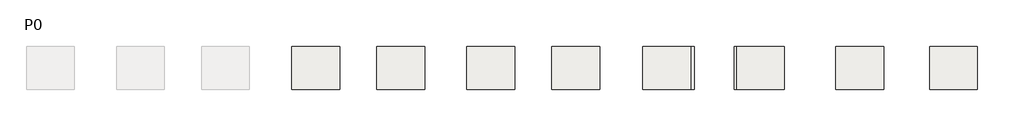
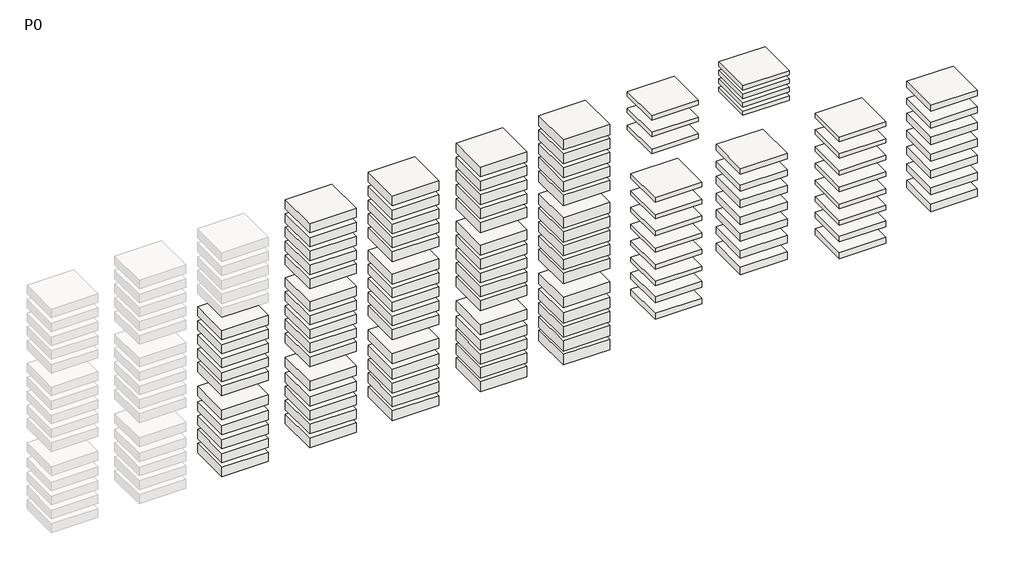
# One storey, part 11 of 11: 107 slabs.
"""IFC4 building model written with IfcOpenShell, lengths in millimetres."""

import ifcopenshell
import ifcopenshell.guid

model = None  # the IFC model being written
_history = None  # IfcOwnerHistory: only IFC2X3 demands one
_inside = {}  # id of a spatial element -> (the spatial element, [elements in it])
_under = {}  # id of a project, library or spatial element -> (it, [spatial elements below it])
_declared = {}  # id of a project -> (the project, [libraries it declares])
_typed = {}  # id of a type object -> (the type object, [elements of that type])
_made_of = {}  # id of a material, layer set ... -> (it, [elements and type objects made of it])


def new_model(schema):
    """Start an empty IFC model of exactly this schema.

    Asked for "IFC4X3", IfcOpenShell would pick the latest addendum, in which some entities
    have other attributes; the version numbers below select the first issue.
    IFC2X3 requires an IfcOwnerHistory on every rooted entity: one is made here for all.
    """
    global model, _history
    if schema == "IFC4X3":
        model = ifcopenshell.file(schema_version=(4, 3, 0, 0))
    else:
        model = ifcopenshell.file(schema=schema)
    _inside.clear()
    _under.clear()
    _declared.clear()
    _typed.clear()
    _made_of.clear()
    _history = None
    if model.schema == "IFC2X3":
        org = make("IfcOrganization", Name="unknown")
        user = make(
            "IfcPersonAndOrganization",
            ThePerson=make("IfcPerson", FamilyName="unknown"),
            TheOrganization=org,
        )
        app = make(
            "IfcApplication",
            ApplicationDeveloper=org,
            Version="unknown",
            ApplicationFullName="unknown",
            ApplicationIdentifier="unknown",
        )
        _history = make(
            "IfcOwnerHistory",
            OwningUser=user,
            OwningApplication=app,
            ChangeAction="ADDED",
            CreationDate=0,
        )
    return model


def make(cls, **values):
    """One entity of the class cls with the attributes given. An attribute that is None is left unset."""
    return model.create_entity(
        cls, **{name: value for name, value in values.items() if value is not None}
    )


def rooted(cls, **values):
    """An entity with a GlobalId (a new one), such as an element, a storey or a relation."""
    return make(cls, GlobalId=ifcopenshell.guid.new(), OwnerHistory=_history, **values)


def si_unit(unit_type, name, prefix=None):
    """IfcSIUnit, for example si_unit("LENGTHUNIT", "METRE", prefix="MILLI")."""
    return make("IfcSIUnit", UnitType=unit_type, Prefix=prefix, Name=name)


def assignment(units):
    """IfcUnitAssignment: the units of a project."""
    return None if units is None else make("IfcUnitAssignment", Units=units)


def point(xyz):
    """IfcCartesianPoint."""
    return None if xyz is None else make("IfcCartesianPoint", Coordinates=xyz)


def direction(xyz):
    """IfcDirection."""
    return None if xyz is None else make("IfcDirection", DirectionRatios=xyz)


def frame(location, z_axis=None, x_axis=None):
    """IfcAxis2Placement3D, a coordinate frame: its origin and axes. An axis left out is left unset."""
    return make(
        "IfcAxis2Placement3D",
        Location=point(location),
        Axis=direction(z_axis),
        RefDirection=direction(x_axis),
    )


def origin():
    """The frame at (0, 0, 0) with its axes left unset."""
    return frame((0.0, 0.0, 0.0))


def place(relative_to, where):
    """IfcLocalPlacement: puts the frame where relative to a parent placement (None: the world)."""
    return make(
        "IfcLocalPlacement", PlacementRelTo=relative_to, RelativePlacement=where
    )


def context(
    kind, dimensions, precision=None, world=None, true_north=None, identifier=None
):
    """IfcGeometricRepresentationContext, for example the 3D "Model" context."""
    return make(
        "IfcGeometricRepresentationContext",
        ContextIdentifier=identifier,
        ContextType=kind,
        CoordinateSpaceDimension=dimensions,
        Precision=precision,
        WorldCoordinateSystem=world,
        TrueNorth=true_north,
    )


def project(units=None, contexts=None):
    """IfcProject with its units and contexts."""
    return rooted(
        "IfcProject",
        Name="project",
        RepresentationContexts=contexts,
        UnitsInContext=assignment(units),
    )


def spatial(cls, under=None, at=None, **own):
    """A site, building, storey or space (cls), placed at a placement, below another one or the project."""
    s = rooted(cls, ObjectPlacement=at, **own)
    if under is not None:
        _under.setdefault(under.id(), (under, []))[1].append(s)
    return s


def polyline(points):
    """IfcPolyline through the points."""
    return make("IfcPolyline", Points=[point(p) for p in points])


def outline(outer, holes=None, kind="AREA"):
    """IfcArbitraryClosedProfileDef: a profile drawn as a closed curve; with holes, ...WithVoids."""
    if holes is None:
        return make("IfcArbitraryClosedProfileDef", ProfileType=kind, OuterCurve=outer)
    return make(
        "IfcArbitraryProfileDefWithVoids",
        ProfileType=kind,
        OuterCurve=outer,
        InnerCurves=holes,
    )


def extrude(swept, where, along, depth):
    """IfcExtrudedAreaSolid: the profile swept, set in the frame where, extruded along a direction by depth."""
    return make(
        "IfcExtrudedAreaSolid",
        SweptArea=swept,
        Position=where,
        ExtrudedDirection=direction(along),
        Depth=depth,
    )


def shape(context_of_items, identifier, shape_type, items):
    """IfcShapeRepresentation: the items that make up one representation, for example the "Body"."""
    return make(
        "IfcShapeRepresentation",
        ContextOfItems=context_of_items,
        RepresentationIdentifier=identifier,
        RepresentationType=shape_type,
        Items=items,
    )


def made_of(thing, what):
    """Note that an element or type object is made of a material, layer set ...; save() writes the relation."""
    if what is not None:
        _made_of.setdefault(what.id(), (what, []))[1].append(thing)
    return thing


def element(
    cls,
    number,
    at=None,
    inside=None,
    cuts=None,
    type_object=None,
    material=None,
    context=None,
    identifier="Body",
    shape_type=None,
    held_by="IfcProductDefinitionShape",
    body=None,
    shapes=None,
    **own,
):
    """One element of the class cls, such as IfcWall. Its Tag is "e" and its number.

    at: its placement. inside: the storey or other place that contains it. cuts: it is an
    opening in that element (IfcRelVoidsElement). A single representation is given by context,
    identifier, shape_type and body (its items); several are given by shapes. held_by: the class
    of the entity that holds the representations. save() writes the other relations.
    """
    e = rooted(cls, Tag="e%d" % number, ObjectPlacement=at, **own)
    if body is not None:
        shapes = [shape(context, identifier, shape_type, body)]
    if shapes is not None:
        e.Representation = make(held_by, Representations=shapes)
    if inside is not None:
        _inside.setdefault(inside.id(), (inside, []))[1].append(e)
    if cuts is not None:
        rooted(
            "IfcRelVoidsElement", RelatingBuildingElement=cuts, RelatedOpeningElement=e
        )
    if type_object is not None:
        _typed.setdefault(type_object.id(), (type_object, []))[1].append(e)
    return made_of(e, material)


def aggregate(whole, parts):
    """IfcRelAggregates: a whole, such as a stair, and the parts it consists of."""
    return rooted("IfcRelAggregates", RelatingObject=whole, RelatedObjects=parts)


def save(model, path):
    """Write the relations noted so far, then the file.

    IfcRelAggregates (storeys below a building ...), IfcRelContainedInSpatialStructure (elements
    in a storey), IfcRelDefinesByType, IfcRelAssociatesMaterial and IfcRelDeclares: one each for
    every whole, place, type object, material and project.
    """
    for whole, parts in _under.values():
        aggregate(whole, parts)
    for where, things in _inside.values():
        rooted(
            "IfcRelContainedInSpatialStructure",
            RelatedElements=things,
            RelatingStructure=where,
        )
    for kind, things in _typed.values():
        rooted("IfcRelDefinesByType", RelatedObjects=things, RelatingType=kind)
    for what, things in _made_of.values():
        rooted("IfcRelAssociatesMaterial", RelatedObjects=things, RelatingMaterial=what)
    for by, libraries in _declared.values():
        rooted("IfcRelDeclares", RelatingContext=by, RelatedDefinitions=libraries)
    model.write(path)


model = new_model("IFC4")

# Units and contexts
model_context = context("Model", 3, world=origin())
ifc_project = project(units=[si_unit("LENGTHUNIT", "METRE", prefix="MILLI")], contexts=[model_context])

# Site, building, storey
site = spatial("IfcSite", under=ifc_project)
building = spatial("IfcBuilding", under=site)
storey = spatial("IfcBuildingStorey", under=building, Name="P0", Elevation=0.0)

# Slabs
placement = place(None, origin())
element("IfcSlab", 1, ObjectType="NNEH48 H9", at=placement, inside=storey, context=model_context, shape_type="SweptSolid", body=[
    extrude(outline(polyline([(333850.1564071, 1686.0689128), (333850.1564071, -1013.9310872), (330850.1564071, -1013.9310872), (330850.1564071, 1686.0689128), (333850.1564071, 1686.0689128)])), frame((0.0, 0.0, -12659.532156), z_axis=(0.0, 0.0, 1.0), x_axis=(1.0, 0.0, 0.0)), (0.0, 0.0, 1.0), 628.0),
])
element("IfcSlab", 2, ObjectType="NNEH48 H9", at=placement, inside=storey, context=model_context, shape_type="SweptSolid", body=[
    extrude(outline(polyline([(333850.1564071, 1686.0689128), (333850.1564071, -1013.9310872), (330850.1564071, -1013.9310872), (330850.1564071, 1686.0689128), (333850.1564071, 1686.0689128)])), frame((0.0, 0.0, -13609.532156), z_axis=(0.0, 0.0, 1.0), x_axis=(1.0, 0.0, 0.0)), (0.0, 0.0, 1.0), 628.0),
])
element("IfcSlab", 3, ObjectType="NNEH48 H9", at=placement, inside=storey, context=model_context, shape_type="SweptSolid", body=[
    extrude(outline(polyline([(333850.1564071, 1686.0689128), (333850.1564071, -1013.9310872), (330850.1564071, -1013.9310872), (330850.1564071, 1686.0689128), (333850.1564071, 1686.0689128)])), frame((0.0, 0.0, -14559.532156), z_axis=(0.0, 0.0, 1.0), x_axis=(1.0, 0.0, 0.0)), (0.0, 0.0, 1.0), 628.0),
])
element("IfcSlab", 4, ObjectType="NNEH48 H9", at=placement, inside=storey, context=model_context, shape_type="SweptSolid", body=[
    extrude(outline(polyline([(333850.1564071, 1686.0689128), (333850.1564071, -1013.9310872), (330850.1564071, -1013.9310872), (330850.1564071, 1686.0689128), (333850.1564071, 1686.0689128)])), frame((0.0, 0.0, -15509.532156), z_axis=(0.0, 0.0, 1.0), x_axis=(1.0, 0.0, 0.0)), (0.0, 0.0, 1.0), 628.0),
])
element("IfcSlab", 5, ObjectType="NNEH48 H9", at=placement, inside=storey, context=model_context, shape_type="SweptSolid", body=[
    extrude(outline(polyline([(333850.1564071, 1686.0689128), (333850.1564071, -1013.9310872), (330850.1564071, -1013.9310872), (330850.1564071, 1686.0689128), (333850.1564071, 1686.0689128)])), frame((0.0, 0.0, -16459.532156), z_axis=(0.0, 0.0, 1.0), x_axis=(1.0, 0.0, 0.0)), (0.0, 0.0, 1.0), 628.0),
])
element("IfcSlab", 6, ObjectType="NNEH48 H10", at=placement, inside=storey, context=model_context, shape_type="SweptSolid", body=[
    extrude(outline(polyline([(333850.1564071, 1686.0689128), (333850.1564071, -1013.9310872), (330850.1564071, -1013.9310872), (330850.1564071, 1686.0689128), (333850.1564071, 1686.0689128)])), frame((0.0, 0.0, -18089.5322376), z_axis=(0.0, 0.0, 1.0), x_axis=(1.0, 0.0, 0.0)), (0.0, 0.0, 1.0), 638.0),
])
element("IfcSlab", 7, ObjectType="NNEH48 H10", at=placement, inside=storey, context=model_context, shape_type="SweptSolid", body=[
    extrude(outline(polyline([(333850.1564071, 1686.0689128), (333850.1564071, -1013.9310872), (330850.1564071, -1013.9310872), (330850.1564071, 1686.0689128), (333850.1564071, 1686.0689128)])), frame((0.0, 0.0, -19139.5322376), z_axis=(0.0, 0.0, 1.0), x_axis=(1.0, 0.0, 0.0)), (0.0, 0.0, 1.0), 638.0),
])
element("IfcSlab", 8, ObjectType="NNEH48 H10", at=placement, inside=storey, context=model_context, shape_type="SweptSolid", body=[
    extrude(outline(polyline([(333850.1564071, 1686.0689128), (333850.1564071, -1013.9310872), (330850.1564071, -1013.9310872), (330850.1564071, 1686.0689128), (333850.1564071, 1686.0689128)])), frame((0.0, 0.0, -20089.5322376), z_axis=(0.0, 0.0, 1.0), x_axis=(1.0, 0.0, 0.0)), (0.0, 0.0, 1.0), 638.0),
])
element("IfcSlab", 9, ObjectType="NNEH48 H10", at=placement, inside=storey, context=model_context, shape_type="SweptSolid", body=[
    extrude(outline(polyline([(333850.1564071, 1686.0689128), (333850.1564071, -1013.9310872), (330850.1564071, -1013.9310872), (330850.1564071, 1686.0689128), (333850.1564071, 1686.0689128)])), frame((0.0, 0.0, -21039.5322376), z_axis=(0.0, 0.0, 1.0), x_axis=(1.0, 0.0, 0.0)), (0.0, 0.0, 1.0), 638.0),
])
element("IfcSlab", 10, ObjectType="NNEH48 H10", at=placement, inside=storey, context=model_context, shape_type="SweptSolid", body=[
    extrude(outline(polyline([(333850.1564071, 1686.0689128), (333850.1564071, -1013.9310872), (330850.1564071, -1013.9310872), (330850.1564071, 1686.0689128), (333850.1564071, 1686.0689128)])), frame((0.0, 0.0, -21989.5322376), z_axis=(0.0, 0.0, 1.0), x_axis=(1.0, 0.0, 0.0)), (0.0, 0.0, 1.0), 638.0),
])
element("IfcSlab", 11, ObjectType="NNEH52 H5", at=placement, inside=storey, context=model_context, shape_type="SweptSolid", body=[
    extrude(outline(polyline([(339510.1564071, 1686.0689128), (339510.1564071, -1013.9310872), (336510.1564071, -1013.9310872), (336510.1564071, 1686.0689128), (339510.1564071, 1686.0689128)])), frame((0.0, 0.0, -7339.5323192), z_axis=(0.0, 0.0, 1.0), x_axis=(1.0, 0.0, 0.0)), (0.0, 0.0, 1.0), 628.0),
])
element("IfcSlab", 12, ObjectType="NNEH52 H5", at=placement, inside=storey, context=model_context, shape_type="SweptSolid", body=[
    extrude(outline(polyline([(339510.1564071, 1686.0689128), (339510.1564071, -1013.9310872), (336510.1564071, -1013.9310872), (336510.1564071, 1686.0689128), (339510.1564071, 1686.0689128)])), frame((0.0, 0.0, -8289.5322376), z_axis=(0.0, 0.0, 1.0), x_axis=(1.0, 0.0, 0.0)), (0.0, 0.0, 1.0), 628.0),
])
element("IfcSlab", 13, ObjectType="NNEH52 H5", at=placement, inside=storey, context=model_context, shape_type="SweptSolid", body=[
    extrude(outline(polyline([(339510.1564071, 1686.0689128), (339510.1564071, -1013.9310872), (336510.1564071, -1013.9310872), (336510.1564071, 1686.0689128), (339510.1564071, 1686.0689128)])), frame((0.0, 0.0, -9239.5322376), z_axis=(0.0, 0.0, 1.0), x_axis=(1.0, 0.0, 0.0)), (0.0, 0.0, 1.0), 628.0),
])
element("IfcSlab", 14, ObjectType="NNEH52 H5", at=placement, inside=storey, context=model_context, shape_type="SweptSolid", body=[
    extrude(outline(polyline([(339510.1564071, 1686.0689128), (339510.1564071, -1013.9310872), (336510.1564071, -1013.9310872), (336510.1564071, 1686.0689128), (339510.1564071, 1686.0689128)])), frame((0.0, 0.0, -10189.5322376), z_axis=(0.0, 0.0, 1.0), x_axis=(1.0, 0.0, 0.0)), (0.0, 0.0, 1.0), 628.0),
])
element("IfcSlab", 15, ObjectType="NNEH52 H5", at=placement, inside=storey, context=model_context, shape_type="SweptSolid", body=[
    extrude(outline(polyline([(339510.1564071, 1686.0689128), (339510.1564071, -1013.9310872), (336510.1564071, -1013.9310872), (336510.1564071, 1686.0689128), (339510.1564071, 1686.0689128)])), frame((0.0, 0.0, -11139.5323192), z_axis=(0.0, 0.0, 1.0), x_axis=(1.0, 0.0, 0.0)), (0.0, 0.0, 1.0), 628.0),
])
element("IfcSlab", 16, ObjectType="NNEH52 H6", at=placement, inside=storey, context=model_context, shape_type="SweptSolid", body=[
    extrude(outline(polyline([(339510.1564071, 1686.0689128), (339510.1564071, -1013.9310872), (336510.1564071, -1013.9310872), (336510.1564071, 1686.0689128), (339510.1564071, 1686.0689128)])), frame((0.0, 0.0, -12669.532156), z_axis=(0.0, 0.0, 1.0), x_axis=(1.0, 0.0, 0.0)), (0.0, 0.0, 1.0), 638.0),
])
element("IfcSlab", 17, ObjectType="NNEH52 H6", at=placement, inside=storey, context=model_context, shape_type="SweptSolid", body=[
    extrude(outline(polyline([(339510.1564071, 1686.0689128), (339510.1564071, -1013.9310872), (336510.1564071, -1013.9310872), (336510.1564071, 1686.0689128), (339510.1564071, 1686.0689128)])), frame((0.0, 0.0, -13619.532156), z_axis=(0.0, 0.0, 1.0), x_axis=(1.0, 0.0, 0.0)), (0.0, 0.0, 1.0), 638.0),
])
element("IfcSlab", 18, ObjectType="NNEH52 H6", at=placement, inside=storey, context=model_context, shape_type="SweptSolid", body=[
    extrude(outline(polyline([(339510.1564071, 1686.0689128), (339510.1564071, -1013.9310872), (336510.1564071, -1013.9310872), (336510.1564071, 1686.0689128), (339510.1564071, 1686.0689128)])), frame((0.0, 0.0, -14569.532156), z_axis=(0.0, 0.0, 1.0), x_axis=(1.0, 0.0, 0.0)), (0.0, 0.0, 1.0), 638.0),
])
element("IfcSlab", 19, ObjectType="NNEH52 H6", at=placement, inside=storey, context=model_context, shape_type="SweptSolid", body=[
    extrude(outline(polyline([(339510.1564071, 1686.0689128), (339510.1564071, -1013.9310872), (336510.1564071, -1013.9310872), (336510.1564071, 1686.0689128), (339510.1564071, 1686.0689128)])), frame((0.0, 0.0, -15519.532156), z_axis=(0.0, 0.0, 1.0), x_axis=(1.0, 0.0, 0.0)), (0.0, 0.0, 1.0), 638.0),
])
element("IfcSlab", 20, ObjectType="NNEH52 H6", at=placement, inside=storey, context=model_context, shape_type="SweptSolid", body=[
    extrude(outline(polyline([(339510.1564071, 1686.0689128), (339510.1564071, -1013.9310872), (336510.1564071, -1013.9310872), (336510.1564071, 1686.0689128), (339510.1564071, 1686.0689128)])), frame((0.0, 0.0, -16469.532156), z_axis=(0.0, 0.0, 1.0), x_axis=(1.0, 0.0, 0.0)), (0.0, 0.0, 1.0), 638.0),
])
element("IfcSlab", 21, ObjectType="NNEH52 H7", at=placement, inside=storey, context=model_context, shape_type="SweptSolid", body=[
    extrude(outline(polyline([(339510.1564071, 1686.0689128), (339510.1564071, -1013.9310872), (336510.1564071, -1013.9310872), (336510.1564071, 1686.0689128), (339510.1564071, 1686.0689128)])), frame((0.0, 0.0, -18099.5322376), z_axis=(0.0, 0.0, 1.0), x_axis=(1.0, 0.0, 0.0)), (0.0, 0.0, 1.0), 648.0),
])
element("IfcSlab", 22, ObjectType="NNEH52 H7", at=placement, inside=storey, context=model_context, shape_type="SweptSolid", body=[
    extrude(outline(polyline([(339510.1564071, 1686.0689128), (339510.1564071, -1013.9310872), (336510.1564071, -1013.9310872), (336510.1564071, 1686.0689128), (339510.1564071, 1686.0689128)])), frame((0.0, 0.0, -19149.5322376), z_axis=(0.0, 0.0, 1.0), x_axis=(1.0, 0.0, 0.0)), (0.0, 0.0, 1.0), 648.0),
])
element("IfcSlab", 23, ObjectType="NNEH52 H7", at=placement, inside=storey, context=model_context, shape_type="SweptSolid", body=[
    extrude(outline(polyline([(339510.1564071, 1686.0689128), (339510.1564071, -1013.9310872), (336510.1564071, -1013.9310872), (336510.1564071, 1686.0689128), (339510.1564071, 1686.0689128)])), frame((0.0, 0.0, -20099.5322376), z_axis=(0.0, 0.0, 1.0), x_axis=(1.0, 0.0, 0.0)), (0.0, 0.0, 1.0), 648.0),
])
element("IfcSlab", 24, ObjectType="NNEH52 H7", at=placement, inside=storey, context=model_context, shape_type="SweptSolid", body=[
    extrude(outline(polyline([(339510.1564071, 1686.0689128), (339510.1564071, -1013.9310872), (336510.1564071, -1013.9310872), (336510.1564071, 1686.0689128), (339510.1564071, 1686.0689128)])), frame((0.0, 0.0, -21049.5322376), z_axis=(0.0, 0.0, 1.0), x_axis=(1.0, 0.0, 0.0)), (0.0, 0.0, 1.0), 648.0),
])
element("IfcSlab", 25, ObjectType="NNEH52 H7", at=placement, inside=storey, context=model_context, shape_type="SweptSolid", body=[
    extrude(outline(polyline([(339510.1564071, 1686.0689128), (339510.1564071, -1013.9310872), (336510.1564071, -1013.9310872), (336510.1564071, 1686.0689128), (339510.1564071, 1686.0689128)])), frame((0.0, 0.0, -21999.5322376), z_axis=(0.0, 0.0, 1.0), x_axis=(1.0, 0.0, 0.0)), (0.0, 0.0, 1.0), 648.0),
])
element("IfcSlab", 26, ObjectType="NNEH52 H8", at=placement, inside=storey, context=model_context, shape_type="SweptSolid", body=[
    extrude(outline(polyline([(344850.1564071, 1686.0689128), (344850.1564071, -1013.9310872), (341850.1564071, -1013.9310872), (341850.1564071, 1686.0689128), (344850.1564071, 1686.0689128)])), frame((0.0, 0.0, -7369.5322376), z_axis=(0.0, 0.0, 1.0), x_axis=(1.0, 0.0, 0.0)), (0.0, 0.0, 1.0), 658.0),
])
element("IfcSlab", 27, ObjectType="NNEH52 H8", at=placement, inside=storey, context=model_context, shape_type="SweptSolid", body=[
    extrude(outline(polyline([(344850.1564071, 1686.0689128), (344850.1564071, -1013.9310872), (341850.1564071, -1013.9310872), (341850.1564071, 1686.0689128), (344850.1564071, 1686.0689128)])), frame((0.0, 0.0, -8319.5322376), z_axis=(0.0, 0.0, 1.0), x_axis=(1.0, 0.0, 0.0)), (0.0, 0.0, 1.0), 658.0),
])
element("IfcSlab", 28, ObjectType="NNEH52 H8", at=placement, inside=storey, context=model_context, shape_type="SweptSolid", body=[
    extrude(outline(polyline([(344850.1564071, 1686.0689128), (344850.1564071, -1013.9310872), (341850.1564071, -1013.9310872), (341850.1564071, 1686.0689128), (344850.1564071, 1686.0689128)])), frame((0.0, 0.0, -9269.5322376), z_axis=(0.0, 0.0, 1.0), x_axis=(1.0, 0.0, 0.0)), (0.0, 0.0, 1.0), 658.0),
])
element("IfcSlab", 29, ObjectType="NNEH52 H8", at=placement, inside=storey, context=model_context, shape_type="SweptSolid", body=[
    extrude(outline(polyline([(344850.1564071, 1686.0689128), (344850.1564071, -1013.9310872), (341850.1564071, -1013.9310872), (341850.1564071, 1686.0689128), (344850.1564071, 1686.0689128)])), frame((0.0, 0.0, -10219.5322376), z_axis=(0.0, 0.0, 1.0), x_axis=(1.0, 0.0, 0.0)), (0.0, 0.0, 1.0), 658.0),
])
element("IfcSlab", 30, ObjectType="NNEH52 H8", at=placement, inside=storey, context=model_context, shape_type="SweptSolid", body=[
    extrude(outline(polyline([(344850.1564071, 1686.0689128), (344850.1564071, -1013.9310872), (341850.1564071, -1013.9310872), (341850.1564071, 1686.0689128), (344850.1564071, 1686.0689128)])), frame((0.0, 0.0, -11169.5323192), z_axis=(0.0, 0.0, 1.0), x_axis=(1.0, 0.0, 0.0)), (0.0, 0.0, 1.0), 658.0),
])
element("IfcSlab", 31, ObjectType="NNEH52 H9", at=placement, inside=storey, context=model_context, shape_type="SweptSolid", body=[
    extrude(outline(polyline([(344850.1564071, 1686.0689128), (344850.1564071, -1013.9310872), (341850.1564071, -1013.9310872), (341850.1564071, 1686.0689128), (344850.1564071, 1686.0689128)])), frame((0.0, 0.0, -12699.532156), z_axis=(0.0, 0.0, 1.0), x_axis=(1.0, 0.0, 0.0)), (0.0, 0.0, 1.0), 668.0),
])
element("IfcSlab", 32, ObjectType="NNEH52 H9", at=placement, inside=storey, context=model_context, shape_type="SweptSolid", body=[
    extrude(outline(polyline([(344850.1564071, 1686.0689128), (344850.1564071, -1013.9310872), (341850.1564071, -1013.9310872), (341850.1564071, 1686.0689128), (344850.1564071, 1686.0689128)])), frame((0.0, 0.0, -13649.532156), z_axis=(0.0, 0.0, 1.0), x_axis=(1.0, 0.0, 0.0)), (0.0, 0.0, 1.0), 668.0),
])
element("IfcSlab", 33, ObjectType="NNEH52 H9", at=placement, inside=storey, context=model_context, shape_type="SweptSolid", body=[
    extrude(outline(polyline([(344850.1564071, 1686.0689128), (344850.1564071, -1013.9310872), (341850.1564071, -1013.9310872), (341850.1564071, 1686.0689128), (344850.1564071, 1686.0689128)])), frame((0.0, 0.0, -14599.532156), z_axis=(0.0, 0.0, 1.0), x_axis=(1.0, 0.0, 0.0)), (0.0, 0.0, 1.0), 668.0),
])
element("IfcSlab", 34, ObjectType="NNEH52 H9", at=placement, inside=storey, context=model_context, shape_type="SweptSolid", body=[
    extrude(outline(polyline([(344850.1564071, 1686.0689128), (344850.1564071, -1013.9310872), (341850.1564071, -1013.9310872), (341850.1564071, 1686.0689128), (344850.1564071, 1686.0689128)])), frame((0.0, 0.0, -15549.532156), z_axis=(0.0, 0.0, 1.0), x_axis=(1.0, 0.0, 0.0)), (0.0, 0.0, 1.0), 668.0),
])
element("IfcSlab", 35, ObjectType="NNEH52 H9", at=placement, inside=storey, context=model_context, shape_type="SweptSolid", body=[
    extrude(outline(polyline([(344850.1564071, 1686.0689128), (344850.1564071, -1013.9310872), (341850.1564071, -1013.9310872), (341850.1564071, 1686.0689128), (344850.1564071, 1686.0689128)])), frame((0.0, 0.0, -16499.532156), z_axis=(0.0, 0.0, 1.0), x_axis=(1.0, 0.0, 0.0)), (0.0, 0.0, 1.0), 668.0),
])
element("IfcSlab", 36, ObjectType="NNEH52 H10", at=placement, inside=storey, context=model_context, shape_type="SweptSolid", body=[
    extrude(outline(polyline([(344850.1564071, 1686.0689128), (344850.1564071, -1013.9310872), (341850.1564071, -1013.9310872), (341850.1564071, 1686.0689128), (344850.1564071, 1686.0689128)])), frame((0.0, 0.0, -18129.5322376), z_axis=(0.0, 0.0, 1.0), x_axis=(1.0, 0.0, 0.0)), (0.0, 0.0, 1.0), 678.0),
])
element("IfcSlab", 37, ObjectType="NNEH52 H10", at=placement, inside=storey, context=model_context, shape_type="SweptSolid", body=[
    extrude(outline(polyline([(344850.1564071, 1686.0689128), (344850.1564071, -1013.9310872), (341850.1564071, -1013.9310872), (341850.1564071, 1686.0689128), (344850.1564071, 1686.0689128)])), frame((0.0, 0.0, -19179.5322376), z_axis=(0.0, 0.0, 1.0), x_axis=(1.0, 0.0, 0.0)), (0.0, 0.0, 1.0), 678.0),
])
element("IfcSlab", 38, ObjectType="NNEH52 H10", at=placement, inside=storey, context=model_context, shape_type="SweptSolid", body=[
    extrude(outline(polyline([(344850.1564071, 1686.0689128), (344850.1564071, -1013.9310872), (341850.1564071, -1013.9310872), (341850.1564071, 1686.0689128), (344850.1564071, 1686.0689128)])), frame((0.0, 0.0, -20129.5322376), z_axis=(0.0, 0.0, 1.0), x_axis=(1.0, 0.0, 0.0)), (0.0, 0.0, 1.0), 678.0),
])
element("IfcSlab", 39, ObjectType="NNEH52 H10", at=placement, inside=storey, context=model_context, shape_type="SweptSolid", body=[
    extrude(outline(polyline([(344850.1564071, 1686.0689128), (344850.1564071, -1013.9310872), (341850.1564071, -1013.9310872), (341850.1564071, 1686.0689128), (344850.1564071, 1686.0689128)])), frame((0.0, 0.0, -21079.5322376), z_axis=(0.0, 0.0, 1.0), x_axis=(1.0, 0.0, 0.0)), (0.0, 0.0, 1.0), 678.0),
])
element("IfcSlab", 40, ObjectType="NNEH52 H10", at=placement, inside=storey, context=model_context, shape_type="SweptSolid", body=[
    extrude(outline(polyline([(344850.1564071, 1686.0689128), (344850.1564071, -1013.9310872), (341850.1564071, -1013.9310872), (341850.1564071, 1686.0689128), (344850.1564071, 1686.0689128)])), frame((0.0, 0.0, -22029.5322376), z_axis=(0.0, 0.0, 1.0), x_axis=(1.0, 0.0, 0.0)), (0.0, 0.0, 1.0), 678.0),
])
element("IfcSlab", 41, ObjectType="NNEH56 H5", at=placement, inside=storey, context=model_context, shape_type="SweptSolid", body=[
    extrude(outline(polyline([(350510.1564071, 1686.0689128), (350510.1564071, -1013.9310872), (347510.1564071, -1013.9310872), (347510.1564071, 1686.0689128), (350510.1564071, 1686.0689128)])), frame((0.0, 0.0, -7379.5322376), z_axis=(0.0, 0.0, 1.0), x_axis=(1.0, 0.0, 0.0)), (0.0, 0.0, 1.0), 668.0),
])
element("IfcSlab", 42, ObjectType="NNEH56 H5", at=placement, inside=storey, context=model_context, shape_type="SweptSolid", body=[
    extrude(outline(polyline([(350510.1564071, 1686.0689128), (350510.1564071, -1013.9310872), (347510.1564071, -1013.9310872), (347510.1564071, 1686.0689128), (350510.1564071, 1686.0689128)])), frame((0.0, 0.0, -8329.5322376), z_axis=(0.0, 0.0, 1.0), x_axis=(1.0, 0.0, 0.0)), (0.0, 0.0, 1.0), 668.0),
])
element("IfcSlab", 43, ObjectType="NNEH56 H5", at=placement, inside=storey, context=model_context, shape_type="SweptSolid", body=[
    extrude(outline(polyline([(350510.1564071, 1686.0689128), (350510.1564071, -1013.9310872), (347510.1564071, -1013.9310872), (347510.1564071, 1686.0689128), (350510.1564071, 1686.0689128)])), frame((0.0, 0.0, -9279.5322376), z_axis=(0.0, 0.0, 1.0), x_axis=(1.0, 0.0, 0.0)), (0.0, 0.0, 1.0), 668.0),
])
element("IfcSlab", 44, ObjectType="NNEH56 H5", at=placement, inside=storey, context=model_context, shape_type="SweptSolid", body=[
    extrude(outline(polyline([(350510.1564071, 1686.0689128), (350510.1564071, -1013.9310872), (347510.1564071, -1013.9310872), (347510.1564071, 1686.0689128), (350510.1564071, 1686.0689128)])), frame((0.0, 0.0, -10229.5322376), z_axis=(0.0, 0.0, 1.0), x_axis=(1.0, 0.0, 0.0)), (0.0, 0.0, 1.0), 668.0),
])
element("IfcSlab", 45, ObjectType="NNEH56 H5", at=placement, inside=storey, context=model_context, shape_type="SweptSolid", body=[
    extrude(outline(polyline([(350510.1564071, 1686.0689128), (350510.1564071, -1013.9310872), (347510.1564071, -1013.9310872), (347510.1564071, 1686.0689128), (350510.1564071, 1686.0689128)])), frame((0.0, 0.0, -11179.5323192), z_axis=(0.0, 0.0, 1.0), x_axis=(1.0, 0.0, 0.0)), (0.0, 0.0, 1.0), 668.0),
])
element("IfcSlab", 46, ObjectType="NNEH56 H6", at=placement, inside=storey, context=model_context, shape_type="SweptSolid", body=[
    extrude(outline(polyline([(350510.1564071, 1686.0689128), (350510.1564071, -1013.9310872), (347510.1564071, -1013.9310872), (347510.1564071, 1686.0689128), (350510.1564071, 1686.0689128)])), frame((0.0, 0.0, -12709.532156), z_axis=(0.0, 0.0, 1.0), x_axis=(1.0, 0.0, 0.0)), (0.0, 0.0, 1.0), 678.0),
])
element("IfcSlab", 47, ObjectType="NNEH56 H6", at=placement, inside=storey, context=model_context, shape_type="SweptSolid", body=[
    extrude(outline(polyline([(350510.1564071, 1686.0689128), (350510.1564071, -1013.9310872), (347510.1564071, -1013.9310872), (347510.1564071, 1686.0689128), (350510.1564071, 1686.0689128)])), frame((0.0, 0.0, -13659.532156), z_axis=(0.0, 0.0, 1.0), x_axis=(1.0, 0.0, 0.0)), (0.0, 0.0, 1.0), 678.0),
])
element("IfcSlab", 48, ObjectType="NNEH56 H6", at=placement, inside=storey, context=model_context, shape_type="SweptSolid", body=[
    extrude(outline(polyline([(350510.1564071, 1686.0689128), (350510.1564071, -1013.9310872), (347510.1564071, -1013.9310872), (347510.1564071, 1686.0689128), (350510.1564071, 1686.0689128)])), frame((0.0, 0.0, -14609.532156), z_axis=(0.0, 0.0, 1.0), x_axis=(1.0, 0.0, 0.0)), (0.0, 0.0, 1.0), 678.0),
])
element("IfcSlab", 49, ObjectType="NNEH56 H6", at=placement, inside=storey, context=model_context, shape_type="SweptSolid", body=[
    extrude(outline(polyline([(350510.1564071, 1686.0689128), (350510.1564071, -1013.9310872), (347510.1564071, -1013.9310872), (347510.1564071, 1686.0689128), (350510.1564071, 1686.0689128)])), frame((0.0, 0.0, -15559.532156), z_axis=(0.0, 0.0, 1.0), x_axis=(1.0, 0.0, 0.0)), (0.0, 0.0, 1.0), 678.0),
])
element("IfcSlab", 50, ObjectType="NNEH56 H6", at=placement, inside=storey, context=model_context, shape_type="SweptSolid", body=[
    extrude(outline(polyline([(350510.1564071, 1686.0689128), (350510.1564071, -1013.9310872), (347510.1564071, -1013.9310872), (347510.1564071, 1686.0689128), (350510.1564071, 1686.0689128)])), frame((0.0, 0.0, -16509.532156), z_axis=(0.0, 0.0, 1.0), x_axis=(1.0, 0.0, 0.0)), (0.0, 0.0, 1.0), 678.0),
])
element("IfcSlab", 51, ObjectType="NNEH56 H7", at=placement, inside=storey, context=model_context, shape_type="SweptSolid", body=[
    extrude(outline(polyline([(350510.1564071, 1686.0689128), (350510.1564071, -1013.9310872), (347510.1564071, -1013.9310872), (347510.1564071, 1686.0689128), (350510.1564071, 1686.0689128)])), frame((0.0, 0.0, -18139.5322376), z_axis=(0.0, 0.0, 1.0), x_axis=(1.0, 0.0, 0.0)), (0.0, 0.0, 1.0), 688.0),
])
element("IfcSlab", 52, ObjectType="NNEH56 H7", at=placement, inside=storey, context=model_context, shape_type="SweptSolid", body=[
    extrude(outline(polyline([(350510.1564071, 1686.0689128), (350510.1564071, -1013.9310872), (347510.1564071, -1013.9310872), (347510.1564071, 1686.0689128), (350510.1564071, 1686.0689128)])), frame((0.0, 0.0, -19189.5322376), z_axis=(0.0, 0.0, 1.0), x_axis=(1.0, 0.0, 0.0)), (0.0, 0.0, 1.0), 688.0),
])
element("IfcSlab", 53, ObjectType="NNEH56 H7", at=placement, inside=storey, context=model_context, shape_type="SweptSolid", body=[
    extrude(outline(polyline([(350510.1564071, 1686.0689128), (350510.1564071, -1013.9310872), (347510.1564071, -1013.9310872), (347510.1564071, 1686.0689128), (350510.1564071, 1686.0689128)])), frame((0.0, 0.0, -20139.5322376), z_axis=(0.0, 0.0, 1.0), x_axis=(1.0, 0.0, 0.0)), (0.0, 0.0, 1.0), 688.0),
])
element("IfcSlab", 54, ObjectType="NNEH56 H7", at=placement, inside=storey, context=model_context, shape_type="SweptSolid", body=[
    extrude(outline(polyline([(350510.1564071, 1686.0689128), (350510.1564071, -1013.9310872), (347510.1564071, -1013.9310872), (347510.1564071, 1686.0689128), (350510.1564071, 1686.0689128)])), frame((0.0, 0.0, -21089.5322376), z_axis=(0.0, 0.0, 1.0), x_axis=(1.0, 0.0, 0.0)), (0.0, 0.0, 1.0), 688.0),
])
element("IfcSlab", 55, ObjectType="NNEH56 H7", at=placement, inside=storey, context=model_context, shape_type="SweptSolid", body=[
    extrude(outline(polyline([(350510.1564071, 1686.0689128), (350510.1564071, -1013.9310872), (347510.1564071, -1013.9310872), (347510.1564071, 1686.0689128), (350510.1564071, 1686.0689128)])), frame((0.0, 0.0, -22039.5322376), z_axis=(0.0, 0.0, 1.0), x_axis=(1.0, 0.0, 0.0)), (0.0, 0.0, 1.0), 688.0),
])
element("IfcSlab", 56, ObjectType="NNEH56 H8", at=placement, inside=storey, context=model_context, shape_type="SweptSolid", body=[
    extrude(outline(polyline([(355850.1564071, 1686.0689128), (355850.1564071, -1013.9310872), (352850.1564071, -1013.9310872), (352850.1564071, 1686.0689128), (355850.1564071, 1686.0689128)])), frame((0.0, 0.0, -7409.5322376), z_axis=(0.0, 0.0, 1.0), x_axis=(1.0, 0.0, 0.0)), (0.0, 0.0, 1.0), 698.0),
])
element("IfcSlab", 57, ObjectType="NNEH56 H8", at=placement, inside=storey, context=model_context, shape_type="SweptSolid", body=[
    extrude(outline(polyline([(355850.1564071, 1686.0689128), (355850.1564071, -1013.9310872), (352850.1564071, -1013.9310872), (352850.1564071, 1686.0689128), (355850.1564071, 1686.0689128)])), frame((0.0, 0.0, -8359.5322376), z_axis=(0.0, 0.0, 1.0), x_axis=(1.0, 0.0, 0.0)), (0.0, 0.0, 1.0), 698.0),
])
element("IfcSlab", 58, ObjectType="NNEH56 H8", at=placement, inside=storey, context=model_context, shape_type="SweptSolid", body=[
    extrude(outline(polyline([(355850.1564071, 1686.0689128), (355850.1564071, -1013.9310872), (352850.1564071, -1013.9310872), (352850.1564071, 1686.0689128), (355850.1564071, 1686.0689128)])), frame((0.0, 0.0, -9309.5322376), z_axis=(0.0, 0.0, 1.0), x_axis=(1.0, 0.0, 0.0)), (0.0, 0.0, 1.0), 698.0),
])
element("IfcSlab", 59, ObjectType="NNEH56 H8", at=placement, inside=storey, context=model_context, shape_type="SweptSolid", body=[
    extrude(outline(polyline([(355850.1564071, 1686.0689128), (355850.1564071, -1013.9310872), (352850.1564071, -1013.9310872), (352850.1564071, 1686.0689128), (355850.1564071, 1686.0689128)])), frame((0.0, 0.0, -10259.5322376), z_axis=(0.0, 0.0, 1.0), x_axis=(1.0, 0.0, 0.0)), (0.0, 0.0, 1.0), 698.0),
])
element("IfcSlab", 60, ObjectType="NNEH56 H8", at=placement, inside=storey, context=model_context, shape_type="SweptSolid", body=[
    extrude(outline(polyline([(355850.1564071, 1686.0689128), (355850.1564071, -1013.9310872), (352850.1564071, -1013.9310872), (352850.1564071, 1686.0689128), (355850.1564071, 1686.0689128)])), frame((0.0, 0.0, -11209.5323192), z_axis=(0.0, 0.0, 1.0), x_axis=(1.0, 0.0, 0.0)), (0.0, 0.0, 1.0), 698.0),
])
element("IfcSlab", 61, ObjectType="NNEH56 H9", at=placement, inside=storey, context=model_context, shape_type="SweptSolid", body=[
    extrude(outline(polyline([(355850.1564071, 1686.0689128), (355850.1564071, -1013.9310872), (352850.1564071, -1013.9310872), (352850.1564071, 1686.0689128), (355850.1564071, 1686.0689128)])), frame((0.0, 0.0, -12739.532156), z_axis=(0.0, 0.0, 1.0), x_axis=(1.0, 0.0, 0.0)), (0.0, 0.0, 1.0), 708.0),
])
element("IfcSlab", 62, ObjectType="NNEH56 H9", at=placement, inside=storey, context=model_context, shape_type="SweptSolid", body=[
    extrude(outline(polyline([(355850.1564071, 1686.0689128), (355850.1564071, -1013.9310872), (352850.1564071, -1013.9310872), (352850.1564071, 1686.0689128), (355850.1564071, 1686.0689128)])), frame((0.0, 0.0, -13689.532156), z_axis=(0.0, 0.0, 1.0), x_axis=(1.0, 0.0, 0.0)), (0.0, 0.0, 1.0), 708.0),
])
element("IfcSlab", 63, ObjectType="NNEH56 H9", at=placement, inside=storey, context=model_context, shape_type="SweptSolid", body=[
    extrude(outline(polyline([(355850.1564071, 1686.0689128), (355850.1564071, -1013.9310872), (352850.1564071, -1013.9310872), (352850.1564071, 1686.0689128), (355850.1564071, 1686.0689128)])), frame((0.0, 0.0, -14639.532156), z_axis=(0.0, 0.0, 1.0), x_axis=(1.0, 0.0, 0.0)), (0.0, 0.0, 1.0), 708.0),
])
element("IfcSlab", 64, ObjectType="NNEH56 H9", at=placement, inside=storey, context=model_context, shape_type="SweptSolid", body=[
    extrude(outline(polyline([(355850.1564071, 1686.0689128), (355850.1564071, -1013.9310872), (352850.1564071, -1013.9310872), (352850.1564071, 1686.0689128), (355850.1564071, 1686.0689128)])), frame((0.0, 0.0, -15589.532156), z_axis=(0.0, 0.0, 1.0), x_axis=(1.0, 0.0, 0.0)), (0.0, 0.0, 1.0), 708.0),
])
element("IfcSlab", 65, ObjectType="NNEH56 H9", at=placement, inside=storey, context=model_context, shape_type="SweptSolid", body=[
    extrude(outline(polyline([(355850.1564071, 1686.0689128), (355850.1564071, -1013.9310872), (352850.1564071, -1013.9310872), (352850.1564071, 1686.0689128), (355850.1564071, 1686.0689128)])), frame((0.0, 0.0, -16539.532156), z_axis=(0.0, 0.0, 1.0), x_axis=(1.0, 0.0, 0.0)), (0.0, 0.0, 1.0), 708.0),
])
element("IfcSlab", 66, ObjectType="NNEH56 H10", at=placement, inside=storey, context=model_context, shape_type="SweptSolid", body=[
    extrude(outline(polyline([(355850.1564071, 1686.0689128), (355850.1564071, -1013.9310872), (352850.1564071, -1013.9310872), (352850.1564071, 1686.0689128), (355850.1564071, 1686.0689128)])), frame((0.0, 0.0, -18169.5322376), z_axis=(0.0, 0.0, 1.0), x_axis=(1.0, 0.0, 0.0)), (0.0, 0.0, 1.0), 718.0),
])
element("IfcSlab", 67, ObjectType="NNEH56 H10", at=placement, inside=storey, context=model_context, shape_type="SweptSolid", body=[
    extrude(outline(polyline([(355850.1564071, 1686.0689128), (355850.1564071, -1013.9310872), (352850.1564071, -1013.9310872), (352850.1564071, 1686.0689128), (355850.1564071, 1686.0689128)])), frame((0.0, 0.0, -19219.5322376), z_axis=(0.0, 0.0, 1.0), x_axis=(1.0, 0.0, 0.0)), (0.0, 0.0, 1.0), 718.0),
])
element("IfcSlab", 68, ObjectType="NNEH56 H10", at=placement, inside=storey, context=model_context, shape_type="SweptSolid", body=[
    extrude(outline(polyline([(355850.1564071, 1686.0689128), (355850.1564071, -1013.9310872), (352850.1564071, -1013.9310872), (352850.1564071, 1686.0689128), (355850.1564071, 1686.0689128)])), frame((0.0, 0.0, -20169.5322376), z_axis=(0.0, 0.0, 1.0), x_axis=(1.0, 0.0, 0.0)), (0.0, 0.0, 1.0), 718.0),
])
element("IfcSlab", 69, ObjectType="NNEH56 H10", at=placement, inside=storey, context=model_context, shape_type="SweptSolid", body=[
    extrude(outline(polyline([(355850.1564071, 1686.0689128), (355850.1564071, -1013.9310872), (352850.1564071, -1013.9310872), (352850.1564071, 1686.0689128), (355850.1564071, 1686.0689128)])), frame((0.0, 0.0, -21119.5322376), z_axis=(0.0, 0.0, 1.0), x_axis=(1.0, 0.0, 0.0)), (0.0, 0.0, 1.0), 718.0),
])
element("IfcSlab", 70, ObjectType="NNEH56 H10", at=placement, inside=storey, context=model_context, shape_type="SweptSolid", body=[
    extrude(outline(polyline([(355850.1564071, 1686.0689128), (355850.1564071, -1013.9310872), (352850.1564071, -1013.9310872), (352850.1564071, 1686.0689128), (355850.1564071, 1686.0689128)])), frame((0.0, 0.0, -22069.5322376), z_axis=(0.0, 0.0, 1.0), x_axis=(1.0, 0.0, 0.0)), (0.0, 0.0, 1.0), 718.0),
])
element("IfcSlab", 71, ObjectType="000_GENERICO_30", at=placement, inside=storey, context=model_context, shape_type="SweptSolid", body=[
    extrude(outline(polyline([(361564.3935043, 1686.0689128), (361564.3935043, -1013.9310872), (358564.3935043, -1013.9310872), (358564.3935043, 1686.0689128), (361564.3935043, 1686.0689128)])), frame((0.0, 0.0, -9661.5323192), z_axis=(0.0, 0.0, 1.0), x_axis=(1.0, 0.0, 0.0)), (0.0, 0.0, 1.0), 300.0),
])
element("IfcSlab", 72, ObjectType="000_GENERICO_30", at=placement, inside=storey, context=model_context, shape_type="SweptSolid", body=[
    extrude(outline(polyline([(361564.3935043, 1686.0689128), (361564.3935043, -1013.9310872), (358564.3935043, -1013.9310872), (358564.3935043, 1686.0689128), (361564.3935043, 1686.0689128)])), frame((0.0, 0.0, -8521.5323192), z_axis=(0.0, 0.0, 1.0), x_axis=(1.0, 0.0, 0.0)), (0.0, 0.0, 1.0), 300.0),
])
element("IfcSlab", 73, ObjectType="000_GENERICO_30", at=placement, inside=storey, context=model_context, shape_type="SweptSolid", body=[
    extrude(outline(polyline([(361564.3935043, 1686.0689128), (361564.3935043, -1013.9310872), (358564.3935043, -1013.9310872), (358564.3935043, 1686.0689128), (361564.3935043, 1686.0689128)])), frame((0.0, 0.0, -7381.5323192), z_axis=(0.0, 0.0, 1.0), x_axis=(1.0, 0.0, 0.0)), (0.0, 0.0, 1.0), 300.0),
])
element("IfcSlab", 74, ObjectType="000_GENERICO_30", at=placement, inside=storey, context=model_context, shape_type="SweptSolid", body=[
    extrude(outline(polyline([(373670.488344, 1686.0689128), (373670.488344, -1013.9310872), (370670.488344, -1013.9310872), (370670.488344, 1686.0689128), (373670.488344, 1686.0689128)])), frame((0.0, 0.0, -13081.5323192), z_axis=(0.0, 0.0, 1.0), x_axis=(1.0, 0.0, 0.0)), (0.0, 0.0, 1.0), 300.0),
])
element("IfcSlab", 75, ObjectType="000_GENERICO_30", at=placement, inside=storey, context=model_context, shape_type="SweptSolid", body=[
    extrude(outline(polyline([(373670.488344, 1686.0689128), (373670.488344, -1013.9310872), (370670.488344, -1013.9310872), (370670.488344, 1686.0689128), (373670.488344, 1686.0689128)])), frame((0.0, 0.0, -14221.5323192), z_axis=(0.0, 0.0, 1.0), x_axis=(1.0, 0.0, 0.0)), (0.0, 0.0, 1.0), 300.0),
])
element("IfcSlab", 76, ObjectType="000_GENERICO_30", at=placement, inside=storey, context=model_context, shape_type="SweptSolid", body=[
    extrude(outline(polyline([(373670.488344, 1686.0689128), (373670.488344, -1013.9310872), (370670.488344, -1013.9310872), (370670.488344, 1686.0689128), (373670.488344, 1686.0689128)])), frame((0.0, 0.0, -15361.5323192), z_axis=(0.0, 0.0, 1.0), x_axis=(1.0, 0.0, 0.0)), (0.0, 0.0, 1.0), 300.0),
])
element("IfcSlab", 77, ObjectType="000_GENERICO_30", at=placement, inside=storey, context=model_context, shape_type="SweptSolid", body=[
    extrude(outline(polyline([(373670.488344, 1686.0689128), (373670.488344, -1013.9310872), (370670.488344, -1013.9310872), (370670.488344, 1686.0689128), (373670.488344, 1686.0689128)])), frame((0.0, 0.0, -16501.5323192), z_axis=(0.0, 0.0, 1.0), x_axis=(1.0, 0.0, 0.0)), (0.0, 0.0, 1.0), 300.0),
])
element("IfcSlab", 78, ObjectType="000_GENERICO_30", at=placement, inside=storey, context=model_context, shape_type="SweptSolid", body=[
    extrude(outline(polyline([(373670.488344, 1686.0689128), (373670.488344, -1013.9310872), (370670.488344, -1013.9310872), (370670.488344, 1686.0689128), (373670.488344, 1686.0689128)])), frame((0.0, 0.0, -17641.5323192), z_axis=(0.0, 0.0, 1.0), x_axis=(1.0, 0.0, 0.0)), (0.0, 0.0, 1.0), 300.0),
])
element("IfcSlab", 79, ObjectType="000_GENERICO_30", at=placement, inside=storey, context=model_context, shape_type="SweptSolid", body=[
    extrude(outline(polyline([(373670.488344, 1686.0689128), (373670.488344, -1013.9310872), (370670.488344, -1013.9310872), (370670.488344, 1686.0689128), (373670.488344, 1686.0689128)])), frame((0.0, 0.0, -18781.5323192), z_axis=(0.0, 0.0, 1.0), x_axis=(1.0, 0.0, 0.0)), (0.0, 0.0, 1.0), 300.0),
])
element("IfcSlab", 80, ObjectType="000_GENERICO_30", at=placement, inside=storey, context=model_context, shape_type="SweptSolid", body=[
    extrude(outline(polyline([(367438.8119282, 1686.0689128), (367438.8119282, -1013.9310872), (364438.8119282, -1013.9310872), (364438.8119282, 1686.0689128), (367438.8119282, 1686.0689128)])), frame((0.0, 0.0, -9116.6515668), z_axis=(0.0, 0.0, 1.0), x_axis=(1.0, 0.0, 0.0)), (0.0, 0.0, 1.0), 300.0),
])
element("IfcSlab", 81, ObjectType="000_GENERICO_30", at=placement, inside=storey, context=model_context, shape_type="SweptSolid", body=[
    extrude(outline(polyline([(367438.8119282, 1686.0689128), (367438.8119282, -1013.9310872), (364438.8119282, -1013.9310872), (364438.8119282, 1686.0689128), (367438.8119282, 1686.0689128)])), frame((0.0, 0.0, -8546.6515668), z_axis=(0.0, 0.0, 1.0), x_axis=(1.0, 0.0, 0.0)), (0.0, 0.0, 1.0), 300.0),
])
element("IfcSlab", 82, ObjectType="000_GENERICO_30", at=placement, inside=storey, context=model_context, shape_type="SweptSolid", body=[
    extrude(outline(polyline([(367438.8119282, 1686.0689128), (367438.8119282, -1013.9310872), (364438.8119282, -1013.9310872), (364438.8119282, 1686.0689128), (367438.8119282, 1686.0689128)])), frame((0.0, 0.0, -7976.6515668), z_axis=(0.0, 0.0, 1.0), x_axis=(1.0, 0.0, 0.0)), (0.0, 0.0, 1.0), 300.0),
])
element("IfcSlab", 83, ObjectType="000_GENERICO_30", at=placement, inside=storey, context=model_context, shape_type="SweptSolid", body=[
    extrude(outline(polyline([(367438.8119282, 1686.0689128), (367438.8119282, -1013.9310872), (364438.8119282, -1013.9310872), (364438.8119282, 1686.0689128), (367438.8119282, 1686.0689128)])), frame((0.0, 0.0, -7406.6515668), z_axis=(0.0, 0.0, 1.0), x_axis=(1.0, 0.0, 0.0)), (0.0, 0.0, 1.0), 300.0),
])
element("IfcSlab", 84, ObjectType="000_GENERICO_30", at=placement, inside=storey, context=model_context, shape_type="SweptSolid", body=[
    extrude(outline(polyline([(361790.488344, 1686.0689128), (361790.488344, -1013.9310872), (358790.488344, -1013.9310872), (358790.488344, 1686.0689128), (361790.488344, 1686.0689128)])), frame((0.0, 0.0, -13056.4130716), z_axis=(0.0, 0.0, 1.0), x_axis=(1.0, 0.0, 0.0)), (0.0, 0.0, 1.0), 300.0),
])
element("IfcSlab", 85, ObjectType="000_GENERICO_30", at=placement, inside=storey, context=model_context, shape_type="SweptSolid", body=[
    extrude(outline(polyline([(361790.488344, 1686.0689128), (361790.488344, -1013.9310872), (358790.488344, -1013.9310872), (358790.488344, 1686.0689128), (361790.488344, 1686.0689128)])), frame((0.0, 0.0, -14196.4130716), z_axis=(0.0, 0.0, 1.0), x_axis=(1.0, 0.0, 0.0)), (0.0, 0.0, 1.0), 300.0),
])
element("IfcSlab", 86, ObjectType="000_GENERICO_30", at=placement, inside=storey, context=model_context, shape_type="SweptSolid", body=[
    extrude(outline(polyline([(361790.488344, 1686.0689128), (361790.488344, -1013.9310872), (358790.488344, -1013.9310872), (358790.488344, 1686.0689128), (361790.488344, 1686.0689128)])), frame((0.0, 0.0, -15336.4130716), z_axis=(0.0, 0.0, 1.0), x_axis=(1.0, 0.0, 0.0)), (0.0, 0.0, 1.0), 300.0),
])
element("IfcSlab", 87, ObjectType="000_GENERICO_30", at=placement, inside=storey, context=model_context, shape_type="SweptSolid", body=[
    extrude(outline(polyline([(361790.488344, 1686.0689128), (361790.488344, -1013.9310872), (358790.488344, -1013.9310872), (358790.488344, 1686.0689128), (361790.488344, 1686.0689128)])), frame((0.0, 0.0, -16476.4130716), z_axis=(0.0, 0.0, 1.0), x_axis=(1.0, 0.0, 0.0)), (0.0, 0.0, 1.0), 300.0),
])
element("IfcSlab", 88, ObjectType="000_GENERICO_30", at=placement, inside=storey, context=model_context, shape_type="SweptSolid", body=[
    extrude(outline(polyline([(361790.488344, 1686.0689128), (361790.488344, -1013.9310872), (358790.488344, -1013.9310872), (358790.488344, 1686.0689128), (361790.488344, 1686.0689128)])), frame((0.0, 0.0, -17616.4130716), z_axis=(0.0, 0.0, 1.0), x_axis=(1.0, 0.0, 0.0)), (0.0, 0.0, 1.0), 300.0),
])
element("IfcSlab", 89, ObjectType="000_GENERICO_30", at=placement, inside=storey, context=model_context, shape_type="SweptSolid", body=[
    extrude(outline(polyline([(361790.488344, 1686.0689128), (361790.488344, -1013.9310872), (358790.488344, -1013.9310872), (358790.488344, 1686.0689128), (361790.488344, 1686.0689128)])), frame((0.0, 0.0, -18756.4130716), z_axis=(0.0, 0.0, 1.0), x_axis=(1.0, 0.0, 0.0)), (0.0, 0.0, 1.0), 300.0),
])
element("IfcSlab", 90, ObjectType="000_GENERICO_40", at=placement, inside=storey, context=model_context, shape_type="SweptSolid", body=[
    extrude(outline(polyline([(373670.488344, 1686.0689128), (373670.488344, -1013.9310872), (370670.488344, -1013.9310872), (370670.488344, 1686.0689128), (373670.488344, 1686.0689128)])), frame((0.0, 0.0, -19921.5323192), z_axis=(0.0, 0.0, 1.0), x_axis=(1.0, 0.0, 0.0)), (0.0, 0.0, 1.0), 400.0),
])
element("IfcSlab", 91, ObjectType="000_GENERICO_40", at=placement, inside=storey, context=model_context, shape_type="SweptSolid", body=[
    extrude(outline(polyline([(373670.488344, 1686.0689128), (373670.488344, -1013.9310872), (370670.488344, -1013.9310872), (370670.488344, 1686.0689128), (373670.488344, 1686.0689128)])), frame((0.0, 0.0, -21061.5323192), z_axis=(0.0, 0.0, 1.0), x_axis=(1.0, 0.0, 0.0)), (0.0, 0.0, 1.0), 400.0),
])
element("IfcSlab", 92, ObjectType="000_GENERICO_40", at=placement, inside=storey, context=model_context, shape_type="SweptSolid", body=[
    extrude(outline(polyline([(379570.488344, 1686.0689128), (379570.488344, -1013.9310872), (376570.488344, -1013.9310872), (376570.488344, 1686.0689128), (379570.488344, 1686.0689128)])), frame((0.0, 0.0, -13081.5323192), z_axis=(0.0, 0.0, 1.0), x_axis=(1.0, 0.0, 0.0)), (0.0, 0.0, 1.0), 400.0),
])
element("IfcSlab", 93, ObjectType="000_GENERICO_40", at=placement, inside=storey, context=model_context, shape_type="SweptSolid", body=[
    extrude(outline(polyline([(379570.488344, 1686.0689128), (379570.488344, -1013.9310872), (376570.488344, -1013.9310872), (376570.488344, 1686.0689128), (379570.488344, 1686.0689128)])), frame((0.0, 0.0, -14221.5323192), z_axis=(0.0, 0.0, 1.0), x_axis=(1.0, 0.0, 0.0)), (0.0, 0.0, 1.0), 400.0),
])
element("IfcSlab", 94, ObjectType="000_GENERICO_40", at=placement, inside=storey, context=model_context, shape_type="SweptSolid", body=[
    extrude(outline(polyline([(361790.488344, 1686.0689128), (361790.488344, -1013.9310872), (358790.488344, -1013.9310872), (358790.488344, 1686.0689128), (361790.488344, 1686.0689128)])), frame((0.0, 0.0, -19896.4130716), z_axis=(0.0, 0.0, 1.0), x_axis=(1.0, 0.0, 0.0)), (0.0, 0.0, 1.0), 400.0),
])
element("IfcSlab", 95, ObjectType="000_GENERICO_40", at=placement, inside=storey, context=model_context, shape_type="SweptSolid", body=[
    extrude(outline(polyline([(361790.488344, 1686.0689128), (361790.488344, -1013.9310872), (358790.488344, -1013.9310872), (358790.488344, 1686.0689128), (361790.488344, 1686.0689128)])), frame((0.0, 0.0, -21036.4130716), z_axis=(0.0, 0.0, 1.0), x_axis=(1.0, 0.0, 0.0)), (0.0, 0.0, 1.0), 400.0),
])
element("IfcSlab", 96, ObjectType="000_GENERICO_40", at=placement, inside=storey, context=model_context, shape_type="SweptSolid", body=[
    extrude(outline(polyline([(367290.488344, 1686.0689128), (367290.488344, -1013.9310872), (364290.488344, -1013.9310872), (364290.488344, 1686.0689128), (367290.488344, 1686.0689128)])), frame((0.0, 0.0, -13081.5323192), z_axis=(0.0, 0.0, 1.0), x_axis=(1.0, 0.0, 0.0)), (0.0, 0.0, 1.0), 400.0),
])
element("IfcSlab", 97, ObjectType="000_GENERICO_40", at=placement, inside=storey, context=model_context, shape_type="SweptSolid", body=[
    extrude(outline(polyline([(367290.488344, 1686.0689128), (367290.488344, -1013.9310872), (364290.488344, -1013.9310872), (364290.488344, 1686.0689128), (367290.488344, 1686.0689128)])), frame((0.0, 0.0, -14221.5323192), z_axis=(0.0, 0.0, 1.0), x_axis=(1.0, 0.0, 0.0)), (0.0, 0.0, 1.0), 400.0),
])
element("IfcSlab", 98, ObjectType="000_GENERICO_50", at=placement, inside=storey, context=model_context, shape_type="SweptSolid", body=[
    extrude(outline(polyline([(379570.488344, 1686.0689128), (379570.488344, -1013.9310872), (376570.488344, -1013.9310872), (376570.488344, 1686.0689128), (379570.488344, 1686.0689128)])), frame((0.0, 0.0, -15361.5322376), z_axis=(0.0, 0.0, 1.0), x_axis=(1.0, 0.0, 0.0)), (0.0, 0.0, 1.0), 500.0),
])
element("IfcSlab", 99, ObjectType="000_GENERICO_50", at=placement, inside=storey, context=model_context, shape_type="SweptSolid", body=[
    extrude(outline(polyline([(379570.488344, 1686.0689128), (379570.488344, -1013.9310872), (376570.488344, -1013.9310872), (376570.488344, 1686.0689128), (379570.488344, 1686.0689128)])), frame((0.0, 0.0, -16501.532156), z_axis=(0.0, 0.0, 1.0), x_axis=(1.0, 0.0, 0.0)), (0.0, 0.0, 1.0), 500.0),
])
element("IfcSlab", 100, ObjectType="000_GENERICO_50", at=placement, inside=storey, context=model_context, shape_type="SweptSolid", body=[
    extrude(outline(polyline([(379570.488344, 1686.0689128), (379570.488344, -1013.9310872), (376570.488344, -1013.9310872), (376570.488344, 1686.0689128), (379570.488344, 1686.0689128)])), frame((0.0, 0.0, -17641.5323192), z_axis=(0.0, 0.0, 1.0), x_axis=(1.0, 0.0, 0.0)), (0.0, 0.0, 1.0), 500.0),
])
element("IfcSlab", 101, ObjectType="000_GENERICO_50", at=placement, inside=storey, context=model_context, shape_type="SweptSolid", body=[
    extrude(outline(polyline([(379570.488344, 1686.0689128), (379570.488344, -1013.9310872), (376570.488344, -1013.9310872), (376570.488344, 1686.0689128), (379570.488344, 1686.0689128)])), frame((0.0, 0.0, -18781.5323192), z_axis=(0.0, 0.0, 1.0), x_axis=(1.0, 0.0, 0.0)), (0.0, 0.0, 1.0), 500.0),
])
element("IfcSlab", 102, ObjectType="000_GENERICO_50", at=placement, inside=storey, context=model_context, shape_type="SweptSolid", body=[
    extrude(outline(polyline([(379570.488344, 1686.0689128), (379570.488344, -1013.9310872), (376570.488344, -1013.9310872), (376570.488344, 1686.0689128), (379570.488344, 1686.0689128)])), frame((0.0, 0.0, -19921.5323192), z_axis=(0.0, 0.0, 1.0), x_axis=(1.0, 0.0, 0.0)), (0.0, 0.0, 1.0), 500.0),
])
element("IfcSlab", 103, ObjectType="000_GENERICO_50", at=placement, inside=storey, context=model_context, shape_type="SweptSolid", body=[
    extrude(outline(polyline([(367290.488344, 1686.0689128), (367290.488344, -1013.9310872), (364290.488344, -1013.9310872), (364290.488344, 1686.0689128), (367290.488344, 1686.0689128)])), frame((0.0, 0.0, -15361.5322376), z_axis=(0.0, 0.0, 1.0), x_axis=(1.0, 0.0, 0.0)), (0.0, 0.0, 1.0), 500.0),
])
element("IfcSlab", 104, ObjectType="000_GENERICO_50", at=placement, inside=storey, context=model_context, shape_type="SweptSolid", body=[
    extrude(outline(polyline([(367290.488344, 1686.0689128), (367290.488344, -1013.9310872), (364290.488344, -1013.9310872), (364290.488344, 1686.0689128), (367290.488344, 1686.0689128)])), frame((0.0, 0.0, -16501.532156), z_axis=(0.0, 0.0, 1.0), x_axis=(1.0, 0.0, 0.0)), (0.0, 0.0, 1.0), 500.0),
])
element("IfcSlab", 105, ObjectType="000_GENERICO_50", at=placement, inside=storey, context=model_context, shape_type="SweptSolid", body=[
    extrude(outline(polyline([(367290.488344, 1686.0689128), (367290.488344, -1013.9310872), (364290.488344, -1013.9310872), (364290.488344, 1686.0689128), (367290.488344, 1686.0689128)])), frame((0.0, 0.0, -17641.5323192), z_axis=(0.0, 0.0, 1.0), x_axis=(1.0, 0.0, 0.0)), (0.0, 0.0, 1.0), 500.0),
])
element("IfcSlab", 106, ObjectType="000_GENERICO_50", at=placement, inside=storey, context=model_context, shape_type="SweptSolid", body=[
    extrude(outline(polyline([(367290.488344, 1686.0689128), (367290.488344, -1013.9310872), (364290.488344, -1013.9310872), (364290.488344, 1686.0689128), (367290.488344, 1686.0689128)])), frame((0.0, 0.0, -18781.5323192), z_axis=(0.0, 0.0, 1.0), x_axis=(1.0, 0.0, 0.0)), (0.0, 0.0, 1.0), 500.0),
])
element("IfcSlab", 107, ObjectType="000_GENERICO_50", at=placement, inside=storey, context=model_context, shape_type="SweptSolid", body=[
    extrude(outline(polyline([(367290.488344, 1686.0689128), (367290.488344, -1013.9310872), (364290.488344, -1013.9310872), (364290.488344, 1686.0689128), (367290.488344, 1686.0689128)])), frame((0.0, 0.0, -19921.5323192), z_axis=(0.0, 0.0, 1.0), x_axis=(1.0, 0.0, 0.0)), (0.0, 0.0, 1.0), 500.0),
])

save(model, "model.ifc")
